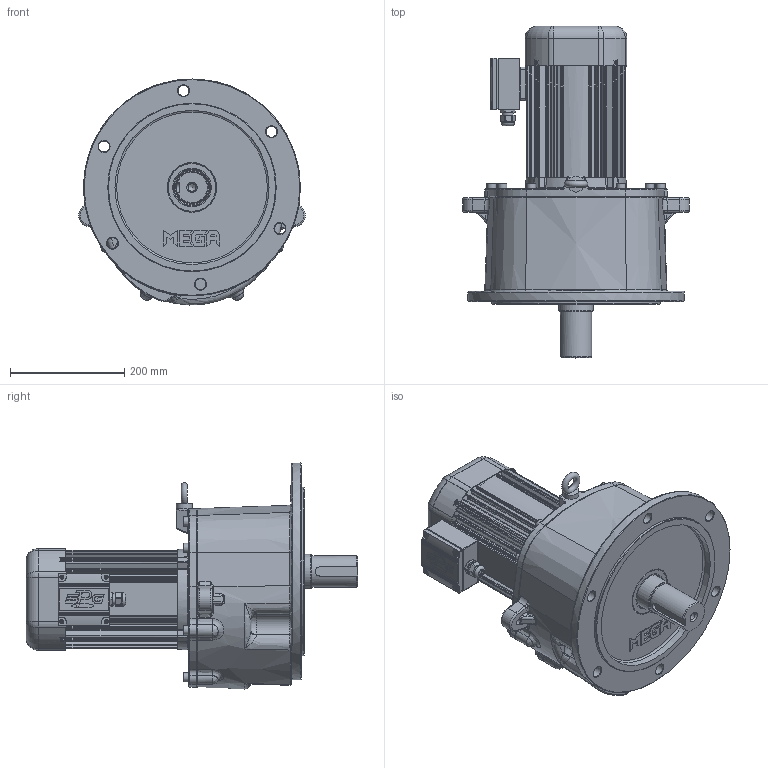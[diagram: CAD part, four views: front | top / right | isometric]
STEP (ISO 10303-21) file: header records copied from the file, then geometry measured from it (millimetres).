
FILE_DESCRIPTION(/* description */ (''),/* implementation_level */ '2;1');
FILE_NAME(/* name */ 'Z:\동력 3D 파일\PMK205_1.5kW_3D.stp',/* time_stamp */ '2021-11-18T16:58:24+09:00',/* author */ ('jaebok'),/* organization */ (''),/* preprocessor_version */ 'ST-DEVELOPER v18.1',/* originating_system */ 'Autodesk Inventor 2022',/* authorisation */ '');
FILE_SCHEMA (('AUTOMOTIVE_DESIGN { 1 0 10303 214 3 1 1 }'));
Products named in the file (1): 부품15
Bounding box: 397 x 581.5 x 395.96 mm (x, y, z)
Volume: 9417565.9 mm3; surface area: 1550420.3 mm2
Topology: 2 solids, 41 shells, 3292 faces, 8209 edges, 4885 vertices
Faces by surface type: plane 1054, cylinder 875, bspline 733, torus 315, cone 181, sphere 134
Full cylindrical faces by diameter (mm): 3.25 x1, 3.6 x4, 4 x21, 4.917 x4, 5 x13, 6 x5, 6.647 x8, 7 x12, 8 x5, 8.376 x1, 10 x9, 10.106 x3, 11 x8, 12 x1, 12.5 x1, 13.835 x1, 15 x1, 16 x8, 19 x6, 20 x3, 21 x1, 23.6 x1, 25 x1, 26 x1, 28 x1, 36 x1, 38 x1, 40 x1, 45 x1, 50 x1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
Entity records: 129121 total; most frequent: CARTESIAN_POINT 51571, ORIENTED_EDGE 15958, DIRECTION 15086, EDGE_CURVE 7979, AXIS2_PLACEMENT_3D 6080, VERTEX_POINT 4885, EDGE_LOOP 3544, CIRCLE 3371
